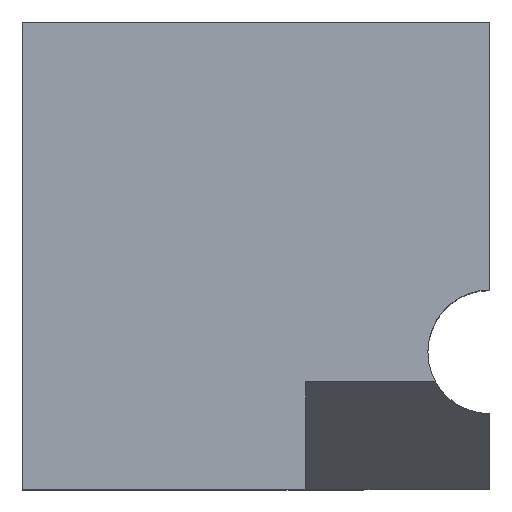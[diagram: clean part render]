
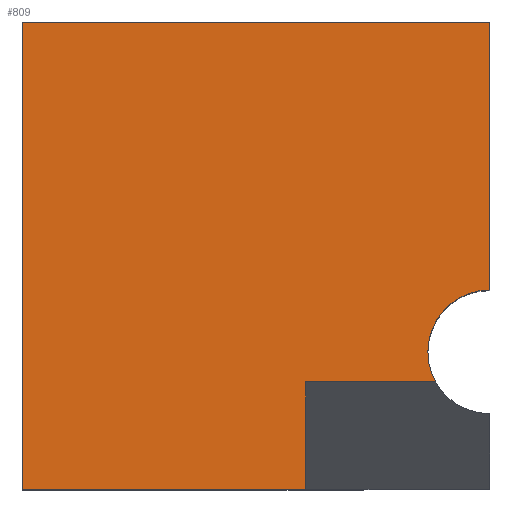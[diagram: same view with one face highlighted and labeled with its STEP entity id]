
A CAD part, top view. The second image highlights one B-rep face of the part: STEP entity #809.
In plain terms, the highlighted planar face has unit normal (0, 0, 1).
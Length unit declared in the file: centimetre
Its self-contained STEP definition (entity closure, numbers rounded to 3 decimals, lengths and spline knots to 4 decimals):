
#33 = LINE ( 'NONE', #810, #546 ) ;
#34 = DIRECTION ( 'NONE',  ( -1., 0., 0. ) ) ;
#56 = EDGE_CURVE ( 'NONE', #1123, #194, #676, .T. ) ;
#58 = DIRECTION ( 'NONE',  ( 0., 0., -1. ) ) ;
#61 = CARTESIAN_POINT ( 'NONE',  ( 884.7379, 229.4878, 1000. ) ) ;
#66 = EDGE_CURVE ( 'NONE', #428, #181, #864, .T. ) ;
#104 = ORIENTED_EDGE ( 'NONE', *, *, #56, .T. ) ;
#166 = CARTESIAN_POINT ( 'NONE',  ( 0., 0., 1000. ) ) ;
#172 = VECTOR ( 'NONE', #921, 100. ) ;
#175 = CARTESIAN_POINT ( 'NONE',  ( 0., 1000., 1000. ) ) ;
#180 = FACE_OUTER_BOUND ( 'NONE', #619, .T. ) ;
#181 = VERTEX_POINT ( 'NONE', #473 ) ;
#194 = VERTEX_POINT ( 'NONE', #914 ) ;
#235 = CARTESIAN_POINT ( 'NONE',  ( 0., 0., 1000. ) ) ;
#237 = CARTESIAN_POINT ( 'NONE',  ( 1000., 426.3862, 1000. ) ) ;
#258 = VECTOR ( 'NONE', #653, 100. ) ;
#278 = ORIENTED_EDGE ( 'NONE', *, *, #353, .T. ) ;
#290 = DIRECTION ( 'NONE',  ( 0., 1., 0. ) ) ;
#302 = LINE ( 'NONE', #1062, #446 ) ;
#310 = VECTOR ( 'NONE', #928, 100. ) ;
#344 = ORIENTED_EDGE ( 'NONE', *, *, #951, .T. ) ;
#353 = EDGE_CURVE ( 'NONE', #194, #973, #599, .T. ) ;
#369 = PLANE ( 'NONE',  #941 ) ;
#381 = CARTESIAN_POINT ( 'NONE',  ( 1000., 294.2004, 1000. ) ) ;
#387 = DIRECTION ( 'NONE',  ( 1., 0., 0. ) ) ;
#428 = VERTEX_POINT ( 'NONE', #235 ) ;
#446 = VECTOR ( 'NONE', #290, 100. ) ;
#467 = CARTESIAN_POINT ( 'NONE',  ( 1000., 1000., 1000. ) ) ;
#473 = CARTESIAN_POINT ( 'NONE',  ( 606.3708, 0., 1000. ) ) ;
#477 = AXIS2_PLACEMENT_3D ( 'NONE', #1119, #58, #761 ) ;
#496 = EDGE_CURVE ( 'NONE', #622, #428, #502, .T. ) ;
#502 = LINE ( 'NONE', #853, #172 ) ;
#516 = LINE ( 'NONE', #175, #710 ) ;
#527 = ORIENTED_EDGE ( 'NONE', *, *, #573, .T. ) ;
#535 = DIRECTION ( 'NONE',  ( 0., 0., 1. ) ) ;
#546 = VECTOR ( 'NONE', #906, 100. ) ;
#573 = EDGE_CURVE ( 'NONE', #969, #622, #516, .T. ) ;
#599 = CIRCLE ( 'NONE', #749, 132.1858 ) ;
#619 = EDGE_LOOP ( 'NONE', ( #104, #278, #1040, #527, #962, #980, #1099, #344 ) ) ;
#622 = VERTEX_POINT ( 'NONE', #689 ) ;
#630 = CARTESIAN_POINT ( 'NONE',  ( 0., 0., 1000. ) ) ;
#653 = DIRECTION ( 'NONE',  ( 0., -1., 0. ) ) ;
#676 = CIRCLE ( 'NONE', #477, 132.1858 ) ;
#689 = CARTESIAN_POINT ( 'NONE',  ( 0., 1000., 1000. ) ) ;
#710 = VECTOR ( 'NONE', #1108, 100. ) ;
#728 = DIRECTION ( 'NONE',  ( 0., 0., -1. ) ) ;
#749 = AXIS2_PLACEMENT_3D ( 'NONE', #381, #728, #34 ) ;
#761 = DIRECTION ( 'NONE',  ( -1., 0., 0. ) ) ;
#809 = ADVANCED_FACE ( 'NONE', ( #180 ), #369, .T. ) ;
#810 = CARTESIAN_POINT ( 'NONE',  ( 606.3708, 229.4878, 1000. ) ) ;
#812 = EDGE_CURVE ( 'NONE', #877, #181, #999, .T. ) ;
#853 = CARTESIAN_POINT ( 'NONE',  ( 0., 1000., 1000. ) ) ;
#864 = LINE ( 'NONE', #166, #310 ) ;
#877 = VERTEX_POINT ( 'NONE', #983 ) ;
#905 = EDGE_CURVE ( 'NONE', #973, #969, #302, .T. ) ;
#906 = DIRECTION ( 'NONE',  ( 1., 0., 0. ) ) ;
#914 = CARTESIAN_POINT ( 'NONE',  ( 867.8142, 294.2004, 1000. ) ) ;
#921 = DIRECTION ( 'NONE',  ( 0., -1., 0. ) ) ;
#928 = DIRECTION ( 'NONE',  ( 1., 0., 0. ) ) ;
#941 = AXIS2_PLACEMENT_3D ( 'NONE', #630, #535, #387 ) ;
#951 = EDGE_CURVE ( 'NONE', #877, #1123, #33, .T. ) ;
#962 = ORIENTED_EDGE ( 'NONE', *, *, #496, .T. ) ;
#969 = VERTEX_POINT ( 'NONE', #467 ) ;
#973 = VERTEX_POINT ( 'NONE', #237 ) ;
#980 = ORIENTED_EDGE ( 'NONE', *, *, #66, .T. ) ;
#983 = CARTESIAN_POINT ( 'NONE',  ( 606.3708, 229.4878, 1000. ) ) ;
#999 = LINE ( 'NONE', #1074, #258 ) ;
#1040 = ORIENTED_EDGE ( 'NONE', *, *, #905, .T. ) ;
#1062 = CARTESIAN_POINT ( 'NONE',  ( 1000., 1000., 1000. ) ) ;
#1074 = CARTESIAN_POINT ( 'NONE',  ( 606.3708, 0., 1000. ) ) ;
#1099 = ORIENTED_EDGE ( 'NONE', *, *, #812, .F. ) ;
#1108 = DIRECTION ( 'NONE',  ( -1., 0., 0. ) ) ;
#1119 = CARTESIAN_POINT ( 'NONE',  ( 1000., 294.2004, 1000. ) ) ;
#1123 = VERTEX_POINT ( 'NONE', #61 ) ;
